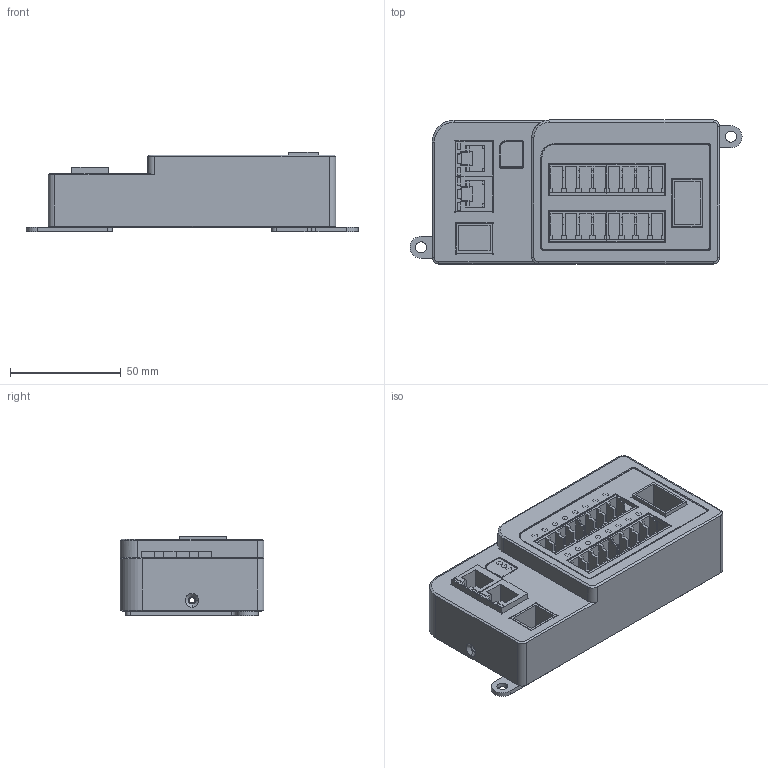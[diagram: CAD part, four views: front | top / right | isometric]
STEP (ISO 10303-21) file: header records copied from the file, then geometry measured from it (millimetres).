
FILE_DESCRIPTION((''),'2;1');
FILE_NAME('MR5101-EA_ASM_20190214_ASM','2021-09-04T',('Administrator'),('yulong DESIGN'),'PRO/ENGINEER BY PARAMETRIC TECHNOLOGY CORPORATION, 2001280','PRO/ENGINEER BY PARAMETRIC TECHNOLOGY CORPORATION, 2001280','');
FILE_SCHEMA(('CONFIG_CONTROL_DESIGN'));
Length unit declared in the file: millimetre
Products named in the file (15): FRONT_COVER_MR5101_32; REAR_COVER_MR5101_19; 2547WVA-XP_4; HY951180A_4; DG271V-2PIN_4; DG27V-4PIN_4; FRONT_PCBA_MR5101_24; REAR_PCBA_COMMON_26; LIGHT_PIPE_11D7_PWR_13; LIGHT_PIPE_10_IO_6; MYLAR_POWER_INDICATOR_13; MYLAR_NUBER_INDICATOR_MR5101_15; CLW-1; MR5101-EA_ASM_38_ASM; MR5101-EA_ASM_20190214_ASM
Assembly tree (36 placements, depth 3):
  MR5101-EA_ASM_20190214_ASM
    MR5101-EA_ASM_38_ASM
      FRONT_COVER_MR5101_32
      REAR_COVER_MR5101_19
      2547WVA-XP_4  x4
      HY951180A_4  x2
      DG271V-2PIN_4
      DG27V-4PIN_4
      FRONT_PCBA_MR5101_24
      REAR_PCBA_COMMON_26
      LIGHT_PIPE_11D7_PWR_13  x3
      LIGHT_PIPE_10_IO_6  x16
      MYLAR_POWER_INDICATOR_13
      MYLAR_NUBER_INDICATOR_MR5101_15
      CLW-1  x2
Bounding box: 149.95 x 65 x 36 mm (x, y, z)
Volume: 102763.5 mm3; surface area: 114255.2 mm2
Topology: 35 solids, 35 shells, 2053 faces, 4949 edges, 3084 vertices
Faces by surface type: plane 1452, cylinder 399, cone 77, sphere 49, torus 48, bspline 26, extrusion 2
Entity records: 37716 total; most frequent: CARTESIAN_POINT 7578, DIRECTION 6350, ORIENTED_EDGE 5978, EDGE_CURVE 2989, AXIS2_PLACEMENT_3D 2148, VECTOR 2054, LINE 2052, VERTEX_POINT 1863
